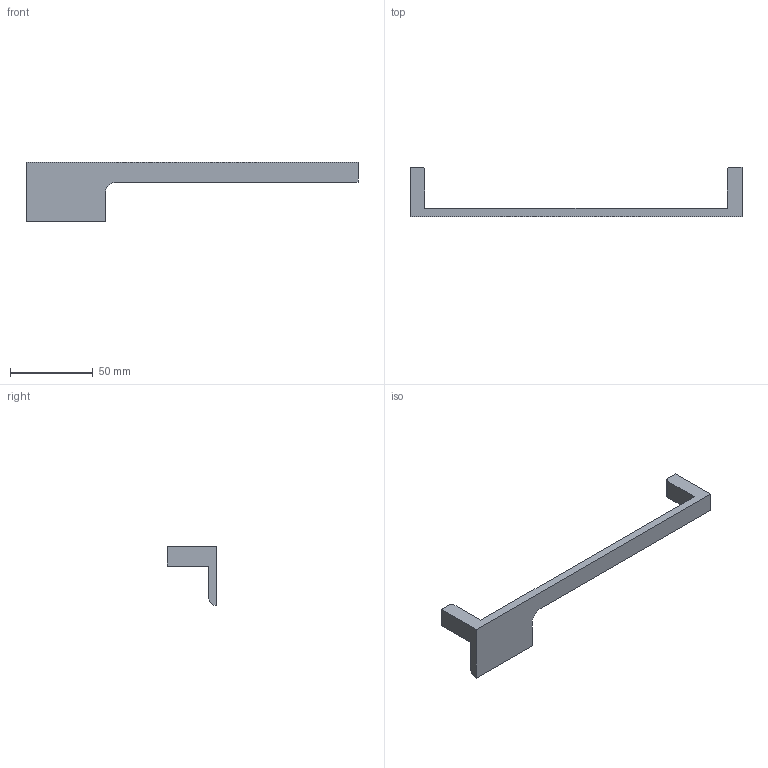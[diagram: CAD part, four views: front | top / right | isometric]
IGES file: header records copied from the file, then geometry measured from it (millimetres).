
Start section: Data from Parasolid IGES Translator 15.0.47, Copyright(c) 2006 Siemens P LM Software. All Rights Reserved.
Global section: file name: 9105747.igs; native system:  By UGS Corp.; preprocessor: XPlus GENERIC/IGES 3.0; author: Noname; organization: Noname; date: 20140123.103322; units: millimetre
Bounding box: 201 x 30 x 36 mm (x, y, z)
Surface area: 11667.3 mm2 (no closed solid volume)
Topology: 0 solids, 0 shells, 20 faces, 96 edges, 94 vertices
Faces by surface type: extrusion 14, revolution 6
